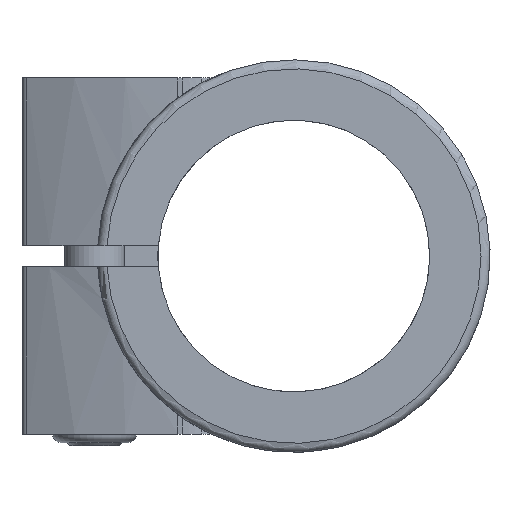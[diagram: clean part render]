
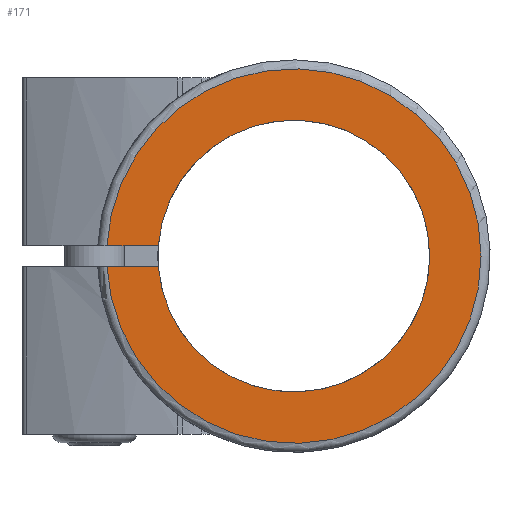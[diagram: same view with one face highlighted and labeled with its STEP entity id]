
A CAD part, left-side view. The second image highlights one B-rep face of the part: STEP entity #171.
In plain terms, the highlighted planar face has unit normal (-1, 0, 0).
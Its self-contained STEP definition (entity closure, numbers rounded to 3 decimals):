
#171 = ADVANCED_FACE( '', ( #460 ), #461, .F. );
#460 = FACE_OUTER_BOUND( '', #820, .T. );
#461 = PLANE( '', #821 );
#820 = EDGE_LOOP( '', ( #1722, #1723, #1724, #1725 ) );
#821 = AXIS2_PLACEMENT_3D( '', #1726, #1727, #1728 );
#1722 = ORIENTED_EDGE( '', *, *, #2583, .F. );
#1723 = ORIENTED_EDGE( '', *, *, #2297, .F. );
#1724 = ORIENTED_EDGE( '', *, *, #2585, .F. );
#1725 = ORIENTED_EDGE( '', *, *, #2311, .F. );
#1726 = CARTESIAN_POINT( '', ( 0., 0., 0. ) );
#1727 = DIRECTION( '', ( 1., 0., 0. ) );
#1728 = DIRECTION( '', ( 0., 0., -1. ) );
#2297 = EDGE_CURVE( '', #2736, #2737, #2738, .T. );
#2311 = EDGE_CURVE( '', #2763, #2765, #2766, .T. );
#2583 = EDGE_CURVE( '', #2737, #2763, #3241, .F. );
#2585 = EDGE_CURVE( '', #2765, #2736, #3243, .T. );
#2736 = VERTEX_POINT( '', #3472 );
#2737 = VERTEX_POINT( '', #3473 );
#2738 = LINE( '', #3474, #3475 );
#2763 = VERTEX_POINT( '', #3519 );
#2765 = VERTEX_POINT( '', #3522 );
#2766 = LINE( '', #3523, #3524 );
#3241 = CIRCLE( '', #4389, 22.5 );
#3243 = CIRCLE( '', #4391, 31. );
#3472 = CARTESIAN_POINT( '', ( 0., 30.951, -1.75 ) );
#3473 = CARTESIAN_POINT( '', ( 0., 22.432, -1.75 ) );
#3474 = CARTESIAN_POINT( '', ( 0., 0., -1.75 ) );
#3475 = VECTOR( '', #4787, 1000. );
#3519 = CARTESIAN_POINT( '', ( 0., 22.432, 1.75 ) );
#3522 = CARTESIAN_POINT( '', ( 0., 30.951, 1.75 ) );
#3523 = CARTESIAN_POINT( '', ( 0., 0., 1.75 ) );
#3524 = VECTOR( '', #4810, 1000. );
#4389 = AXIS2_PLACEMENT_3D( '', #5223, #5224, #5225 );
#4391 = AXIS2_PLACEMENT_3D( '', #5229, #5230, #5231 );
#4787 = DIRECTION( '', ( 0., -1., 0. ) );
#4810 = DIRECTION( '', ( 0., 1., 0. ) );
#5223 = CARTESIAN_POINT( '', ( 0., 0., 0. ) );
#5224 = DIRECTION( '', ( 1., 0., 0. ) );
#5225 = DIRECTION( '', ( 0., 0., -1. ) );
#5229 = CARTESIAN_POINT( '', ( 0., 0., 0. ) );
#5230 = DIRECTION( '', ( 1., 0., 0. ) );
#5231 = DIRECTION( '', ( 0., 0., -1. ) );
